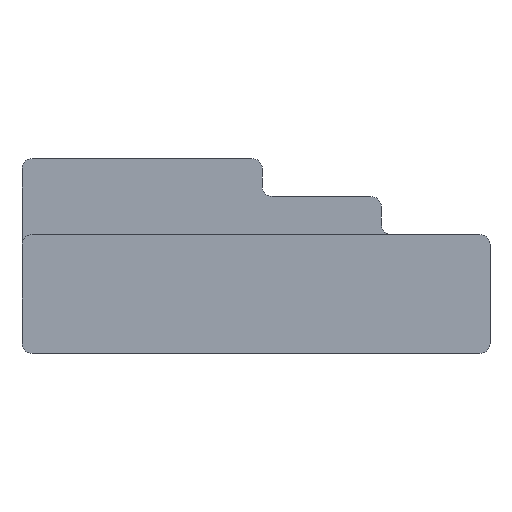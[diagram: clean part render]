
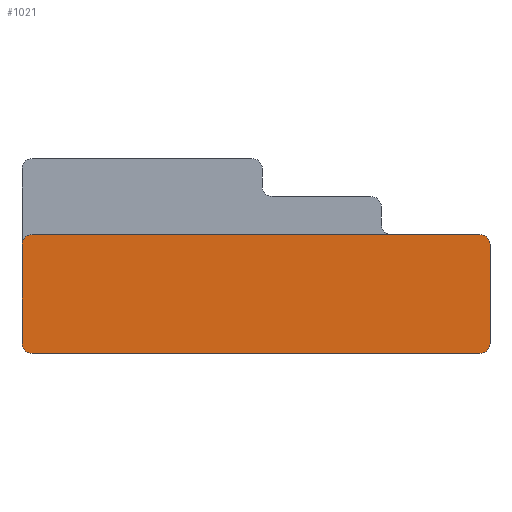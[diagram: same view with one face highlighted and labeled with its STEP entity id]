
A CAD part, front view. The second image highlights one B-rep face of the part: STEP entity #1021.
In plain terms, the highlighted planar face has unit normal (0, -1, 0).
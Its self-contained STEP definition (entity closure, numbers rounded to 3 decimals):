
#180=CARTESIAN_POINT('',(-10.9,-11.6,5.3));
#181=DIRECTION('',(0.,-1.,0.));
#182=DIRECTION('',(0.,0.,1.));
#183=AXIS2_PLACEMENT_3D('',#180,#181,#182);
#185=CARTESIAN_POINT('',(10.9,-11.6,5.3));
#186=DIRECTION('',(0.,-1.,0.));
#187=DIRECTION('',(1.,0.,0.));
#188=AXIS2_PLACEMENT_3D('',#185,#186,#187);
#190=CARTESIAN_POINT('',(10.9,-11.6,0.5));
#191=DIRECTION('',(0.,-1.,0.));
#192=DIRECTION('',(0.,0.,-1.));
#193=AXIS2_PLACEMENT_3D('',#190,#191,#192);
#195=CARTESIAN_POINT('',(-10.9,-11.6,0.5));
#196=DIRECTION('',(0.,-1.,0.));
#197=DIRECTION('',(-1.,0.,0.));
#198=AXIS2_PLACEMENT_3D('',#195,#196,#197);
#200=DIRECTION('',(0.,0.,1.));
#201=VECTOR('',#200,4.8);
#202=CARTESIAN_POINT('',(-11.4,-11.6,0.5));
#203=LINE('',#202,#201);
#288=DIRECTION('',(1.,0.,0.));
#289=VECTOR('',#288,21.8);
#290=CARTESIAN_POINT('',(-10.9,-11.6,5.8));
#291=LINE('',#290,#289);
#480=DIRECTION('',(1.,0.,0.));
#481=VECTOR('',#480,21.8);
#482=CARTESIAN_POINT('',(-10.9,-11.6,0.));
#483=LINE('',#482,#481);
#550=DIRECTION('',(0.,0.,1.));
#551=VECTOR('',#550,4.8);
#552=CARTESIAN_POINT('',(11.4,-11.6,0.5));
#553=LINE('',#552,#551);
#660=CARTESIAN_POINT('',(-10.9,-11.6,5.8));
#661=CARTESIAN_POINT('',(-11.4,-11.6,5.3));
#662=VERTEX_POINT('',#660);
#663=VERTEX_POINT('',#661);
#688=CARTESIAN_POINT('',(11.4,-11.6,5.3));
#689=VERTEX_POINT('',#688);
#690=CARTESIAN_POINT('',(10.9,-11.6,5.8));
#691=VERTEX_POINT('',#690);
#692=CARTESIAN_POINT('',(10.9,-11.6,0.));
#693=CARTESIAN_POINT('',(11.4,-11.6,0.5));
#694=VERTEX_POINT('',#692);
#695=VERTEX_POINT('',#693);
#704=CARTESIAN_POINT('',(-11.4,-11.6,0.5));
#705=VERTEX_POINT('',#704);
#706=CARTESIAN_POINT('',(-10.9,-11.6,0.));
#707=VERTEX_POINT('',#706);
#999=CARTESIAN_POINT('',(-11.4,-11.6,0.));
#1000=DIRECTION('',(0.,-1.,0.));
#1001=DIRECTION('',(1.,0.,0.));
#1002=AXIS2_PLACEMENT_3D('',#999,#1000,#1001);
#1003=PLANE('',#1002);
#1005=ORIENTED_EDGE('',*,*,#1004,.F.);
#1007=ORIENTED_EDGE('',*,*,#1006,.T.);
#1009=ORIENTED_EDGE('',*,*,#1008,.F.);
#1011=ORIENTED_EDGE('',*,*,#1010,.F.);
#1012=ORIENTED_EDGE('',*,*,#989,.F.);
#1014=ORIENTED_EDGE('',*,*,#1013,.F.);
#1016=ORIENTED_EDGE('',*,*,#1015,.F.);
#1018=ORIENTED_EDGE('',*,*,#1017,.T.);
#1019=EDGE_LOOP('',(#1005,#1007,#1009,#1011,#1012,#1014,#1016,#1018));
#1020=FACE_OUTER_BOUND('',#1019,.F.);
#1021=ADVANCED_FACE('',(#1020),#1003,.T.);
#184=CIRCLE('',#183,0.5);
#189=CIRCLE('',#188,0.5);
#194=CIRCLE('',#193,0.5);
#199=CIRCLE('',#198,0.5);
#989=EDGE_CURVE('',#694,#695,#194,.T.);
#1004=EDGE_CURVE('',#662,#663,#184,.T.);
#1006=EDGE_CURVE('',#662,#691,#291,.T.);
#1008=EDGE_CURVE('',#689,#691,#189,.T.);
#1010=EDGE_CURVE('',#695,#689,#553,.T.);
#1013=EDGE_CURVE('',#707,#694,#483,.T.);
#1015=EDGE_CURVE('',#705,#707,#199,.T.);
#1017=EDGE_CURVE('',#705,#663,#203,.T.);
